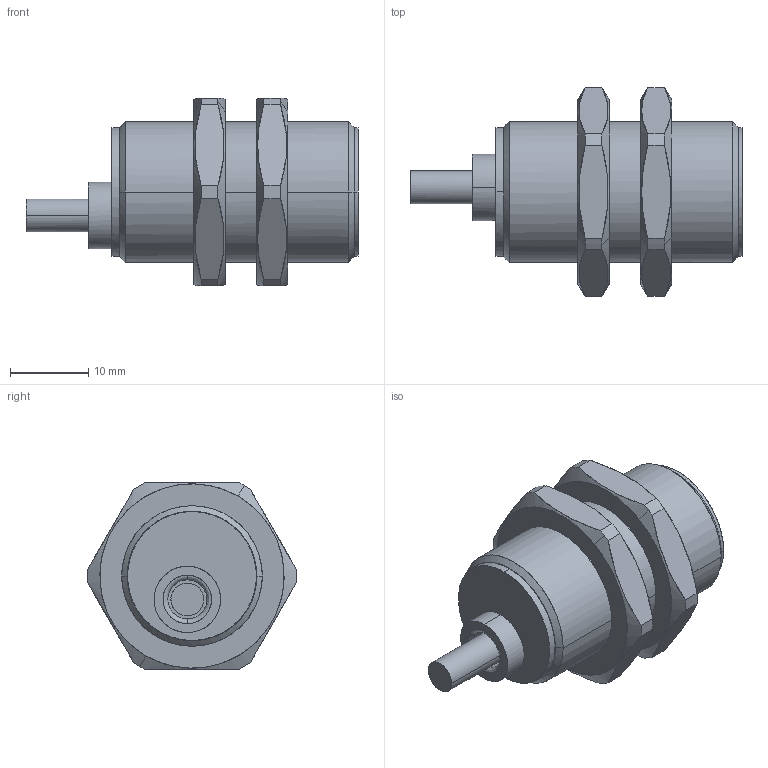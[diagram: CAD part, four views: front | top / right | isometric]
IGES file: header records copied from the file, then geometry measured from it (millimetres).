
Start section: Comment
Global section: file name: IWRM 18x951x.igs; native system:  By Spatial Corp.; preprocessor: XPlus GENERIC/IGES 3.0; author: Author; organization: Title; date: 20060315.100515; units: inch
Bounding box: 42.5 x 26.75 x 24 mm (x, y, z)
Surface area: 4524.7 mm2 (no closed solid volume)
Topology: 0 solids, 0 shells, 75 faces, 348 edges, 348 vertices
Faces by surface type: bspline 75
